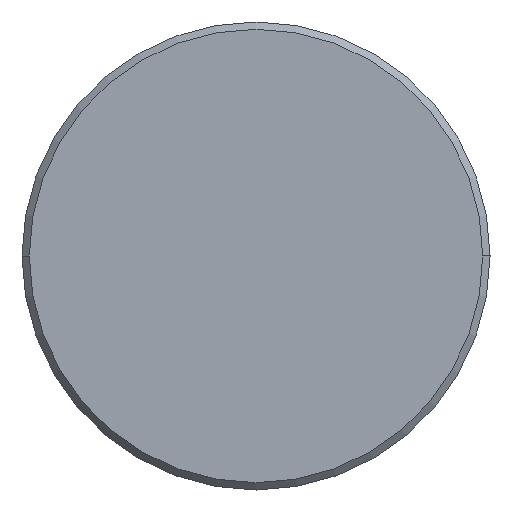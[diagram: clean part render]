
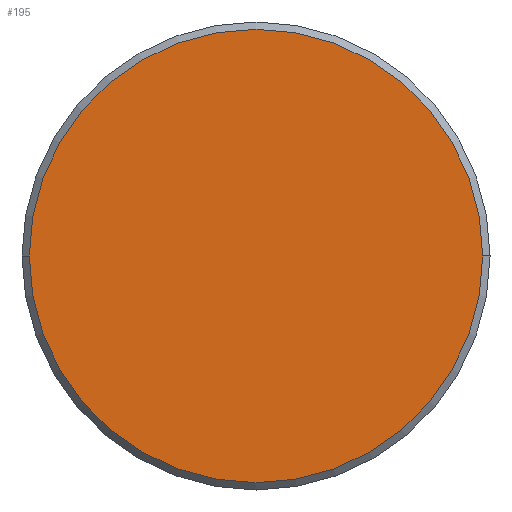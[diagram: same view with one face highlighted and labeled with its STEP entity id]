
A CAD part, left-side view. The second image highlights one B-rep face of the part: STEP entity #195.
In plain terms, the highlighted planar face has unit normal (-1, 0, 0).
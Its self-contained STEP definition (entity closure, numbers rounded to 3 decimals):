
#3 = DIRECTION ( 'NONE',  ( 1., 0., 0. ) ) ;
#12 = CARTESIAN_POINT ( 'NONE',  ( -62., 0., 0. ) ) ;
#23 = ORIENTED_EDGE ( 'NONE', *, *, #53, .F. ) ;
#25 = AXIS2_PLACEMENT_3D ( 'NONE', #12, #266, #98 ) ;
#43 = CIRCLE ( 'NONE', #222, 15.5 ) ;
#53 = EDGE_CURVE ( 'NONE', #167, #263, #134, .T. ) ;
#98 = DIRECTION ( 'NONE',  ( 0., -1., 0. ) ) ;
#118 = EDGE_CURVE ( 'NONE', #263, #167, #43, .T. ) ;
#124 = CARTESIAN_POINT ( 'NONE',  ( -62., -15.5, 0. ) ) ;
#128 = AXIS2_PLACEMENT_3D ( 'NONE', #177, #3, #200 ) ;
#134 = CIRCLE ( 'NONE', #128, 15.5 ) ;
#139 = ORIENTED_EDGE ( 'NONE', *, *, #118, .F. ) ;
#144 = DIRECTION ( 'NONE',  ( 1., 0., 0. ) ) ;
#148 = CARTESIAN_POINT ( 'NONE',  ( -62., 15.5, 0. ) ) ;
#167 = VERTEX_POINT ( 'NONE', #148 ) ;
#176 = FACE_OUTER_BOUND ( 'NONE', #225, .T. ) ;
#177 = CARTESIAN_POINT ( 'NONE',  ( -62., 0., 0. ) ) ;
#195 = ADVANCED_FACE ( 'NONE', ( #176 ), #211, .T. ) ;
#200 = DIRECTION ( 'NONE',  ( 0., 1., 0. ) ) ;
#211 = PLANE ( 'NONE',  #25 ) ;
#222 = AXIS2_PLACEMENT_3D ( 'NONE', #313, #144, #340 ) ;
#225 = EDGE_LOOP ( 'NONE', ( #23, #139 ) ) ;
#263 = VERTEX_POINT ( 'NONE', #124 ) ;
#266 = DIRECTION ( 'NONE',  ( -1., 0., 0. ) ) ;
#313 = CARTESIAN_POINT ( 'NONE',  ( -62., 0., 0. ) ) ;
#340 = DIRECTION ( 'NONE',  ( 0., 1., 0. ) ) ;
